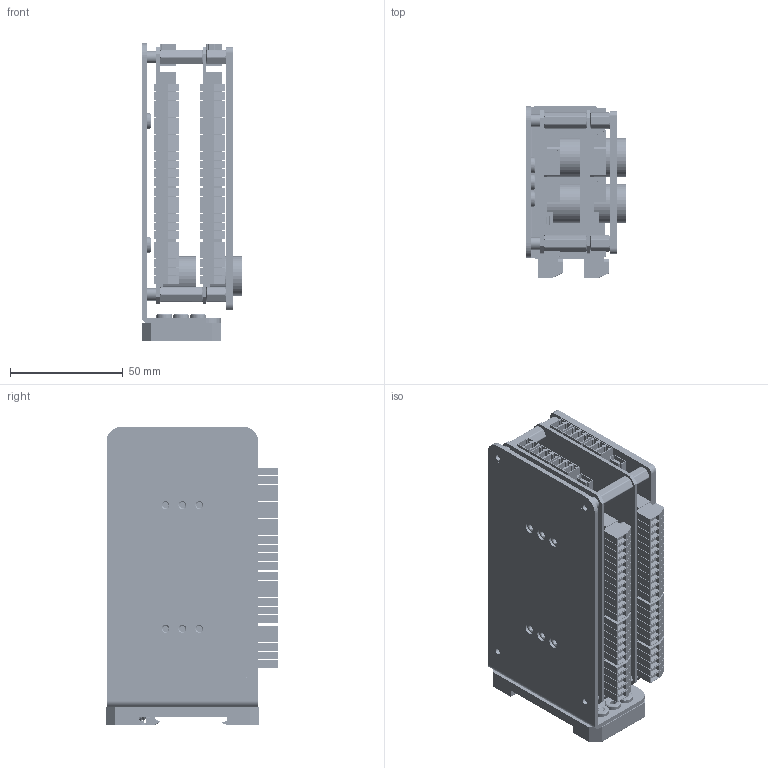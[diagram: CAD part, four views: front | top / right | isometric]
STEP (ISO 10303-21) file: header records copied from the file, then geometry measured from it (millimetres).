
FILE_DESCRIPTION (( 'STEP AP203' ), '1' );
FILE_NAME ('BLC-4T.STEP', '2024-01-30T23:38:56', ( '' ), ( '' ), 'SwSTEP 2.0', 'SolidWorks 2023', '' );
FILE_SCHEMA (( 'CONFIG_CONTROL_DESIGN' ));
Length unit declared in the file: inch
Products named in the file (11): 93505A444_Male-Female Threaded Hex Standoff_93505A444; dinm13-rc; BLC COVER A; OEM-2T; 92210A146_6-32 X .375 SS HEX DRIVE FLAT HEAD SCREW_92210A146; 100305-00; MCM 93505A483_93505A483; thru-hole standoff_pmi_PEM SO-632-8 ZI--N; self-clinching nut_pmi_PEM S-632-1 ZI--N; BLC-4T
Assembly tree (33 placements, depth 3):
  BLC-4T
    100305-00
      100305-00
      thru-hole standoff_pmi_PEM SO-632-8 ZI--N  x4
      self-clinching nut_pmi_PEM S-632-1 ZI--N  x12
    OEM-2T  x2
    dinm13-rc
    92210A146_6-32 X .375 SS HEX DRIVE FLAT HEAD SCREW_92210A146  x3
    93505A444_Male-Female Threaded Hex Standoff_93505A444  x4
    MCM 93505A483_93505A483  x4
    BLC COVER A
Bounding box: 44.45 x 76.55 x 132.46 mm (x, y, z)
Volume: 109600.6 mm3; surface area: 159401 mm2
Topology: 200 solids, 206 shells, 7224 faces, 18441 edges, 12199 vertices
Faces by surface type: plane 5265, cylinder 1490, cone 244, bspline 195, torus 30
Entity records: 125640 total; most frequent: CARTESIAN_POINT 48075, ORIENTED_EDGE 15907, DIRECTION 14726, EDGE_CURVE 8026, LINE 6258, VECTOR 6258, VERTEX_POINT 5309, AXIS2_PLACEMENT_3D 4234
